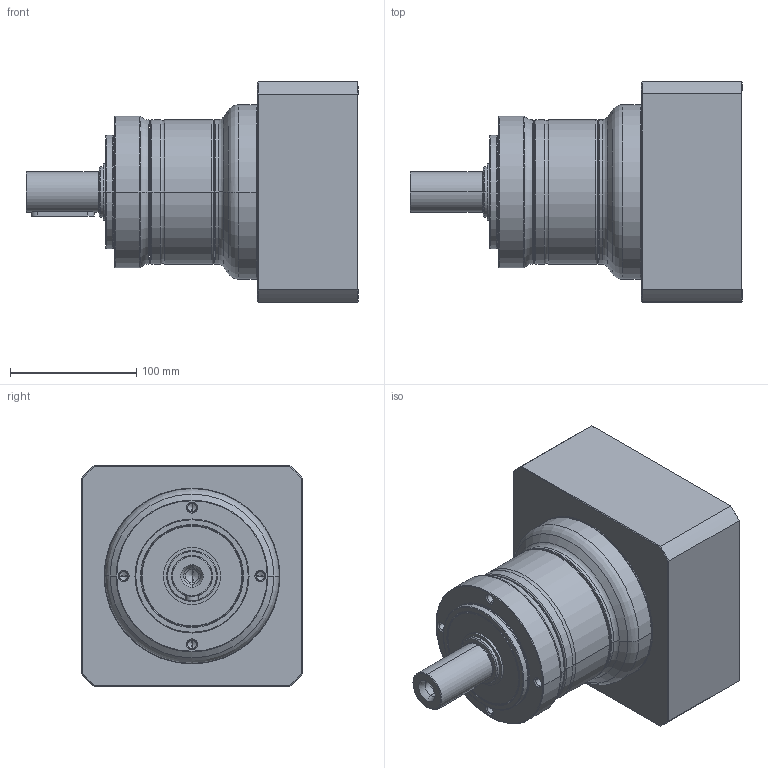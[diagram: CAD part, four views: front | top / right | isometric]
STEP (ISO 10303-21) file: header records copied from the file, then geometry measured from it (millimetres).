
FILE_DESCRIPTION((''),'2;1');
FILE_NAME('PE2-120_1ST_38-P0411900101_ASM','2017-05-31T',('d01943'),(''),'PRO/ENGINEER BY PARAMETRIC TECHNOLOGY CORPORATION, 2008410','PRO/ENGINEER BY PARAMETRIC TECHNOLOGY CORPORATION, 2008410','');
FILE_SCHEMA(('CONFIG_CONTROL_DESIGN'));
Length unit declared in the file: millimetre
Products named in the file (9): P1323410001; P0250400001; P1324400501; P0350401001; P0941405001; P0503900010; P0411900101; P1702600001; PE2-120_1ST_38-P0411900101_ASM
Assembly tree (8 placements, depth 2):
  PE2-120_1ST_38-P0411900101_ASM
    P1323410001
    P0250400001
    P1324400501
    P0350401001
    P0941405001
    P0503900010
    P0411900101
    P1702600001
Bounding box: 262.5 x 174 x 174 mm (x, y, z)
Volume: 2912535.6 mm3; surface area: 341295.8 mm2
Topology: 8 solids, 8 shells, 465 faces, 1019 edges, 584 vertices
Faces by surface type: cone 138, cylinder 136, torus 98, plane 77, bspline 16
Entity records: 17331 total; most frequent: CARTESIAN_POINT 6903, DIRECTION 2377, ORIENTED_EDGE 1974, AXIS2_PLACEMENT_3D 1021, EDGE_CURVE 987, VERTEX_POINT 584, CIRCLE 555, EDGE_LOOP 527
